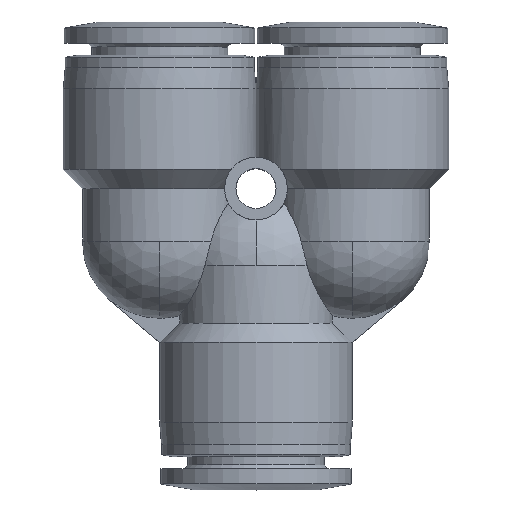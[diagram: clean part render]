
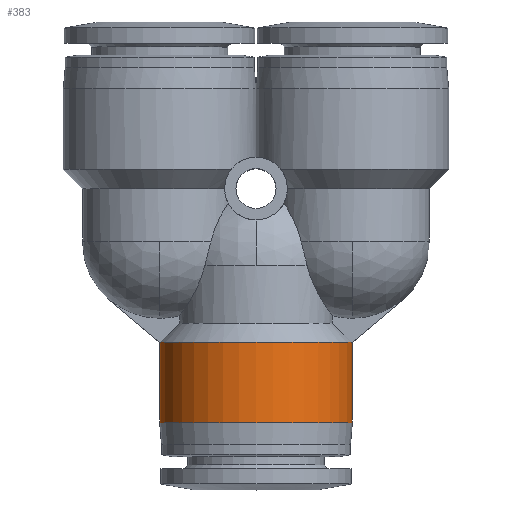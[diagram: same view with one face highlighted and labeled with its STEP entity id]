
A CAD part, top view. The second image highlights one B-rep face of the part: STEP entity #383.
In plain terms, the highlighted cylindrical face has radius 12.75 mm (diameter 25.5 mm), a partial arc.
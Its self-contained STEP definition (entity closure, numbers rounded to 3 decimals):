
#4 = CIRCLE ( 'NONE', #1882, 12.75 ) ;
#122 = VECTOR ( 'NONE', #2176, 1000. ) ;
#241 = VERTEX_POINT ( 'NONE', #868 ) ;
#336 = CARTESIAN_POINT ( 'NONE',  ( 0., -25.675, 0. ) ) ;
#345 = VERTEX_POINT ( 'NONE', #3812 ) ;
#346 = LINE ( 'NONE', #3087, #122 ) ;
#383 = ADVANCED_FACE ( 'NONE', ( #3027 ), #620, .T. ) ;
#515 = AXIS2_PLACEMENT_3D ( 'NONE', #336, #1512, #4032 ) ;
#620 = CYLINDRICAL_SURFACE ( 'NONE', #515, 12.75 ) ;
#740 = ORIENTED_EDGE ( 'NONE', *, *, #2818, .F. ) ;
#792 = CARTESIAN_POINT ( 'NONE',  ( 0., -20.35, 0. ) ) ;
#868 = CARTESIAN_POINT ( 'NONE',  ( -12.75, -20.35, 0. ) ) ;
#1041 = ORIENTED_EDGE ( 'NONE', *, *, #3357, .F. ) ;
#1129 = DIRECTION ( 'NONE',  ( 0., 1., 0. ) ) ;
#1188 = VERTEX_POINT ( 'NONE', #3801 ) ;
#1232 = DIRECTION ( 'NONE',  ( 1., 0., 0. ) ) ;
#1512 = DIRECTION ( 'NONE',  ( 0., 1., 0. ) ) ;
#1541 = CARTESIAN_POINT ( 'NONE',  ( 0., -31., 0. ) ) ;
#1684 = VERTEX_POINT ( 'NONE', #2343 ) ;
#1830 = EDGE_LOOP ( 'NONE', ( #2626, #3529, #740, #1041 ) ) ;
#1882 = AXIS2_PLACEMENT_3D ( 'NONE', #792, #3253, #3889 ) ;
#1998 = VECTOR ( 'NONE', #1129, 1000. ) ;
#2010 = LINE ( 'NONE', #3270, #1998 ) ;
#2176 = DIRECTION ( 'NONE',  ( 0., 1., 0. ) ) ;
#2343 = CARTESIAN_POINT ( 'NONE',  ( 12.75, -31., 0. ) ) ;
#2346 = EDGE_CURVE ( 'NONE', #1684, #1188, #2010, .T. ) ;
#2626 = ORIENTED_EDGE ( 'NONE', *, *, #3304, .T. ) ;
#2763 = DIRECTION ( 'NONE',  ( 0., 1., 0. ) ) ;
#2818 = EDGE_CURVE ( 'NONE', #241, #1188, #4, .T. ) ;
#3027 = FACE_OUTER_BOUND ( 'NONE', #1830, .T. ) ;
#3087 = CARTESIAN_POINT ( 'NONE',  ( -12.75, -25.675, 0. ) ) ;
#3253 = DIRECTION ( 'NONE',  ( 0., 1., 0. ) ) ;
#3270 = CARTESIAN_POINT ( 'NONE',  ( 12.75, -25.675, 0. ) ) ;
#3304 = EDGE_CURVE ( 'NONE', #345, #1684, #3387, .T. ) ;
#3357 = EDGE_CURVE ( 'NONE', #345, #241, #346, .T. ) ;
#3387 = CIRCLE ( 'NONE', #3580, 12.75 ) ;
#3529 = ORIENTED_EDGE ( 'NONE', *, *, #2346, .T. ) ;
#3580 = AXIS2_PLACEMENT_3D ( 'NONE', #1541, #2763, #1232 ) ;
#3801 = CARTESIAN_POINT ( 'NONE',  ( 12.75, -20.35, 0. ) ) ;
#3812 = CARTESIAN_POINT ( 'NONE',  ( -12.75, -31., 0. ) ) ;
#3889 = DIRECTION ( 'NONE',  ( 1., 0., 0. ) ) ;
#4032 = DIRECTION ( 'NONE',  ( -1., 0., 0. ) ) ;
